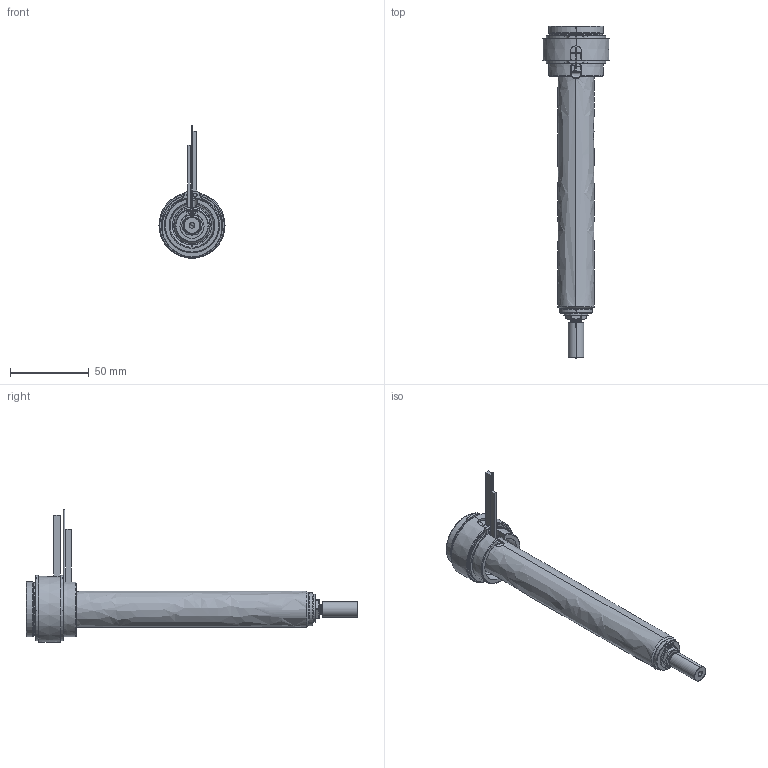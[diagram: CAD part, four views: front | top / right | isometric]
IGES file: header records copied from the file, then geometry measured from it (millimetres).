
Start section: SolidWorks IGES file using analytic representation for surfaces
Global section: file name: C:\Users\luca.EMPAD\Desktop\TEM\UGBE3504-S-A-P-3 [Ød-1.0 P-20 ØC-6.0].IGS; native system: SolidWorks 2012; preprocessor: SolidWorks 2012; author: luca; date: 120330.135549; units: millimetre
Bounding box: 42 x 211 x 84.4 mm (x, y, z)
Surface area: 36086.4 mm2 (no closed solid volume)
Topology: 0 solids, 0 shells, 187 faces, 3442 edges, 3442 vertices
Faces by surface type: revolution 120, bspline 67
